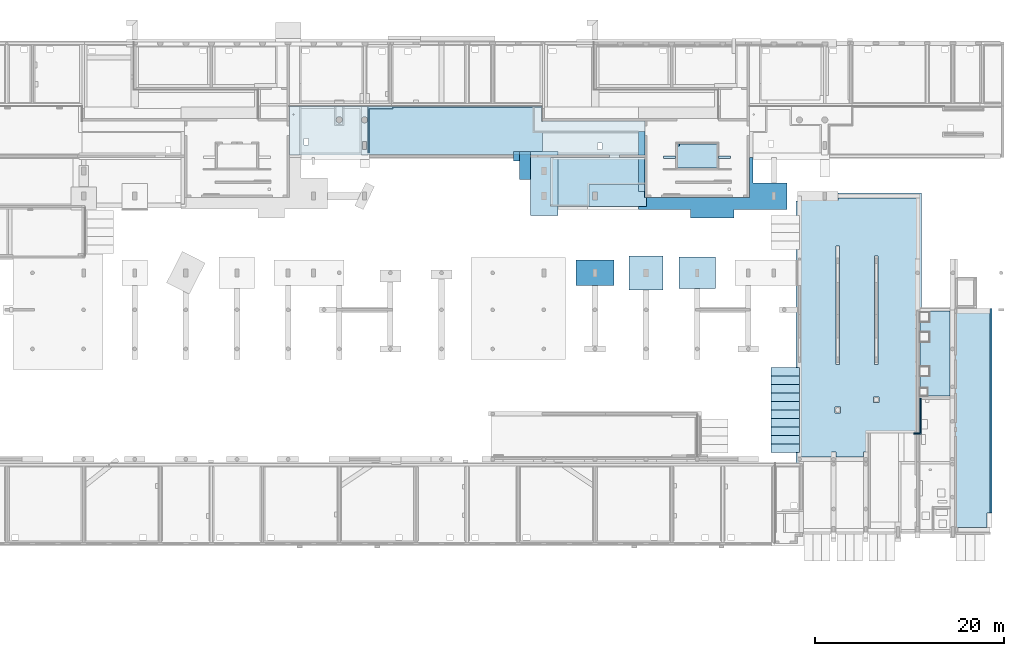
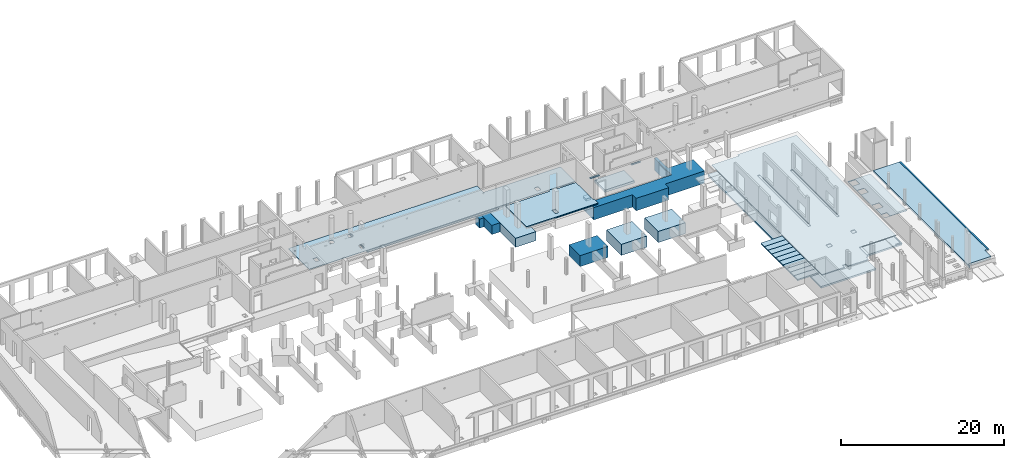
# One storey, part 30 of 60: 36 slabs, 17 openings.
"""IFC2X3 building model written with IfcOpenShell, lengths in millimetres."""

from ifc_helpers import new_model, entity, si_unit, converted_unit, derived_unit, direction, frame, frame_2d, origin, origin_2d_with_axis, place, context, subcontext, project, spatial, polyline, rectangle, circle, outline, extrude, boolean, material, layer, layer_set, layer_usage, element, save


model = new_model("IFC2X3")

# Units and contexts
model_context = context("Model", 3, precision=0.01, world=origin(), true_north=direction((6.12303176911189e-17, 1.0)))
body_context = subcontext(model_context, "Body", "Model", "MODEL_VIEW")
ifc_project = project(units=[si_unit("LENGTHUNIT", "METRE", prefix="MILLI"), si_unit("AREAUNIT", "SQUARE_METRE"), si_unit("VOLUMEUNIT", "CUBIC_METRE"), converted_unit("PLANEANGLEUNIT", "DEGREE", entity("IfcRatioMeasure", 0.0174532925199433), si_unit("PLANEANGLEUNIT", "RADIAN"), dimensions=[0, 0, 0, 0, 0, 0, 0]), si_unit("MASSUNIT", "GRAM", prefix="KILO"), derived_unit("MASSDENSITYUNIT", [(si_unit("MASSUNIT", "GRAM", prefix="KILO"), 1), (si_unit("LENGTHUNIT", "METRE"), -3)]), si_unit("TIMEUNIT", "SECOND"), si_unit("FREQUENCYUNIT", "HERTZ"), si_unit("THERMODYNAMICTEMPERATUREUNIT", "DEGREE_CELSIUS"), derived_unit("THERMALTRANSMITTANCEUNIT", [(si_unit("MASSUNIT", "GRAM", prefix="KILO"), 1), (si_unit("THERMODYNAMICTEMPERATUREUNIT", "KELVIN"), -1), (si_unit("TIMEUNIT", "SECOND"), -3)]), derived_unit("VOLUMETRICFLOWRATEUNIT", [(si_unit("LENGTHUNIT", "METRE"), 3), (si_unit("TIMEUNIT", "SECOND"), -1)]), si_unit("ELECTRICCURRENTUNIT", "AMPERE"), si_unit("ELECTRICVOLTAGEUNIT", "VOLT"), si_unit("POWERUNIT", "WATT"), si_unit("FORCEUNIT", "NEWTON", prefix="KILO"), si_unit("ILLUMINANCEUNIT", "LUX"), si_unit("LUMINOUSFLUXUNIT", "LUMEN"), si_unit("LUMINOUSINTENSITYUNIT", "CANDELA"), derived_unit("USERDEFINED", [(si_unit("MASSUNIT", "GRAM", prefix="KILO"), -1), (si_unit("LENGTHUNIT", "METRE"), -2), (si_unit("TIMEUNIT", "SECOND"), 3), (si_unit("LUMINOUSFLUXUNIT", "LUMEN"), 1)]), derived_unit("LINEARVELOCITYUNIT", [(si_unit("LENGTHUNIT", "METRE"), 1), (si_unit("TIMEUNIT", "SECOND"), -1)]), si_unit("PRESSUREUNIT", "PASCAL"), derived_unit("USERDEFINED", [(si_unit("LENGTHUNIT", "METRE"), -2), (si_unit("MASSUNIT", "GRAM", prefix="KILO"), 1), (si_unit("TIMEUNIT", "SECOND"), -2)])], contexts=[model_context])

# Site, building, storey
site_placement = place(None, origin())
site = spatial("IfcSite", under=ifc_project, at=site_placement, Name="Default", CompositionType="ELEMENT")
building_placement = place(site_placement, origin())
building = spatial("IfcBuilding", under=site, at=building_placement, Name="niet gebruiken", CompositionType="ELEMENT")
storey_placement = place(building_placement, origin())
storey = spatial("IfcBuildingStorey", under=building, at=storey_placement, Name="00 begane grond", CompositionType="ELEMENT", Elevation=0.0)

# Slab, opening
ifc_material_1 = material(Name="NLRS_f2_beton ihwg")
ifc_layer_1 = layer(ifc_material_1, 70.0)
ifc_layer_set_1 = layer_set([ifc_layer_1], Name="Floor:NLRS_23.21_FL_druklaag d=70 - gevlinderd_gen")
ifc_layer_usage_1 = layer_usage(ifc_layer_set_1, "AXIS3", "POSITIVE", 0.0)
slab_1_placement = place(storey_placement, frame((76300.0, 35905.6227616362, -70.0)))
slab_1 = element("IfcSlab", 1, at=slab_1_placement, inside=storey, material=ifc_layer_usage_1, Name="Floor:NLRS_23.21_FL_druklaag d=70 - gevlinderd_gen", ObjectType="Floor:NLRS_23.21_FL_druklaag d=70 - gevlinderd_gen", PredefinedType="FLOOR", context=body_context, shape_type="SweptSolid", body=[
    extrude(outline(polyline([(-2227.49999999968, 2452.68861918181), (-4892.50000000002, 2452.6886191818), (-4892.50000000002, -1752.31138081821), (-5062.49999999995, -1752.31138081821), (-5062.49999999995, -2702.68861918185), (5062.49999999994, -2702.68861918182), (5062.49999999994, 2452.68861918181), (-1202.49999999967, 2452.68861918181), (-1202.49999999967, 2702.68861918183), (-2227.49999999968, 2702.68861918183), (-2227.49999999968, 2452.68861918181)])), frame((5062.49999999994, 2702.68861918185, 70.0), z_axis=(0.0, 0.0, -1.0), x_axis=(-1.0, 0.0, 0.0)), (0.0, 0.0, 1.0), 70.0),
])
opening_1_placement = place(slab_1_placement, frame((4700.0, 1075.37723836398, 70.0)))
element("IfcOpeningElement", 2, at=opening_1_placement, cuts=slab_1, Name="Floor:NLRS_23.21_FL_druklaag d=70 - gevlinderd_gen:2", ObjectType="Opening", context=body_context, shape_type="SweptSolid", body=[
    extrude(rectangle(XDim=850.000000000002, YDim=499.99999999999, at=origin_2d_with_axis()), frame((0.0, 0.0, 0.0), z_axis=(0.0, 0.0, -1.0), x_axis=(0.0, 1.0, 0.0)), (0.0, 0.0, 1.0), 70.0),
])

ifc_material_2 = material(Name="NLRS_f2_beton prefab")
ifc_layer_2 = layer(ifc_material_2, 200.0)
ifc_material_3 = material(Name="NLRS_n7_isolatie EPS")
ifc_layer_3 = layer(ifc_material_3, 132.0)
ifc_layer_set_2 = layer_set([ifc_layer_2, ifc_layer_3], Name="Floor:NLRS_23.21_FL_geisoleerde kanaalplaat d=200 rc 3.5 iso132_gen")
ifc_layer_usage_2 = layer_usage(ifc_layer_set_2, "AXIS3", "POSITIVE", 0.0)
slab_2_placement = place(storey_placement, frame((49800.0, 41331.0, -402.0)))
slab_2 = element("IfcSlab", 3, at=slab_2_placement, inside=storey, material=ifc_layer_usage_2, Name="Floor:NLRS_23.21_FL_geisoleerde kanaalplaat d=200 rc 3.5 iso132_gen:2", ObjectType="Floor:NLRS_23.21_FL_geisoleerde kanaalplaat d=200 rc 3.5 iso132_gen", PredefinedType="FLOOR", context=body_context, shape_type="SweptSolid", body=[
    extrude(outline(polyline([(5600.0, -2572.49999999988), (5600.0, 2572.49999999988), (-11950.0, 2572.49999999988), (-11950.0, -72.5000000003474), (-12825.0, -72.5000000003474), (-12825.0, -2572.49999999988), (5600.0, -2572.49999999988)])), frame((12825.0, 2572.49999999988, 332.0), z_axis=(0.0, 0.0, -1.0), x_axis=(-1.0, 0.0, 0.0)), (0.0, 0.0, 1.0), 332.0),
])
placement = place(storey_placement, frame((49800.0, 41331.0, -402.0)))
opening_2_placement = place(placement, origin())
element("IfcOpeningElement", 4, at=opening_2_placement, cuts=slab_2, ObjectType="Opening", context=body_context, shape_type="SweptSolid", body=[
    extrude(rectangle(XDim=700.000000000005, YDim=499.999999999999, at=origin_2d_with_axis()), frame((709.9895580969, 1375.00073239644, -48.0), z_axis=(0.0, 0.0, 1.0), x_axis=(0.0, -1.0, 0.0)), (0.0, 0.0, 1.0), 450.0),
])

# Slabs
ifc_layer_4 = layer(ifc_material_2, 200.0)
ifc_layer_set_3 = layer_set([ifc_layer_4], Name="Floor:NLRS_23.21_FL_kanaalplaat d=200_gen")
ifc_layer_usage_3 = layer_usage(ifc_layer_set_3, "AXIS3", "POSITIVE", 0.0)
slab_3_placement = place(storey_placement, origin())
element("IfcSlab", 5, at=slab_3_placement, inside=storey, material=ifc_layer_usage_3, Name="Floor:NLRS_23.21_FL_kanaalplaat d=200_gen", ObjectType="Floor:NLRS_23.21_FL_kanaalplaat d=200_gen", PredefinedType="FLOOR", context=body_context, shape_type="SweptSolid", body=[
    extrude(outline(polyline([(-2440.0, -4488.33333333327), (2625.0, -4488.33333333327), (2625.0, 5196.66666666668), (-185.0, 5196.66666666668), (-185.0, -708.333333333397), (-2440.0, -708.333333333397), (-2440.0, -4488.33333333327)])), frame((81058.3333333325, 38416.0, -70.0), z_axis=(0.0, 0.0, -1.0), x_axis=(0.0, 1.0, 0.0)), (0.0, 0.0, 1.0), 200.0),
])
slab_4_placement = place(storey_placement, origin())
element("IfcSlab", 6, at=slab_4_placement, inside=storey, material=ifc_material_1, Name="NLRS_16.13_SFO_LB_fundatiepoer_gen:6750x2900x1350", ObjectType="NLRS_16.13_SFO_LB_fundatiepoer_gen:6750x2900x1350", PredefinedType="BASESLAB", context=body_context, shape_type="SweptSolid", body=[
    extrude(rectangle(XDim=6750.0, YDim=2900.0, at=frame_2d((89.0000000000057, 289.999999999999), x_axis=(1.0, 0.0))), frame((75335.0, 38400.0, -1752.0), z_axis=(0.0, 0.0, 1.0), x_axis=(0.0, -1.0, 0.0)), (0.0, 0.0, 1.0), 1350.0),
])

# Slab, opening
ifc_layer_5 = layer(ifc_material_1, 350.0)
ifc_layer_set_4 = layer_set([ifc_layer_5], Name="Floor:NLRS_23.21_FL_beton ihwg d=350_gen")
ifc_layer_usage_4 = layer_usage(ifc_layer_set_4, "AXIS3", "POSITIVE", 0.0)
slab_5_placement = place(storey_placement, frame((89725.0, 39946.0, -2050.0)))
slab_5 = element("IfcSlab", 7, at=slab_5_placement, inside=storey, material=ifc_layer_usage_4, Name="Floor:NLRS_23.21_FL_beton ihwg d=350_gen", ObjectType="Floor:NLRS_23.21_FL_beton ihwg d=350_gen", PredefinedType="FLOOR", context=body_context, shape_type="SweptSolid", body=[
    extrude(rectangle(XDim=2549.99999999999, YDim=4149.99999999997, at=frame_2d((0.0, 0.0), x_axis=(0.0, -1.0))), frame((2075.0, 1275.0, 350.0), z_axis=(0.0, 0.0, -1.0), x_axis=(-1.0, 0.0, 0.0)), (0.0, 0.0, 1.0), 350.0),
])
opening_3_placement = place(slab_5_placement, origin())
element("IfcOpeningElement", 8, at=opening_3_placement, cuts=slab_5, ObjectType="Opening", context=body_context, shape_type="SweptSolid", body=[
    extrude(rectangle(XDim=200.000000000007, YDim=200.000000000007, at=origin_2d_with_axis()), frame((100.0, 2450.0, 325.0), z_axis=(0.0, 0.0, 1.0), x_axis=(-1.0, 0.0, 0.0)), (0.0, 0.0, 1.0), 25.0),
])

# Slabs
slab_6_placement = place(storey_placement, origin())
element("IfcSlab", 9, at=slab_6_placement, inside=storey, material=ifc_material_1, Name="NLRS_16.13_SFO_LB_fundatiepoer_gen:4000x2700x1650", ObjectType="NLRS_16.13_SFO_LB_fundatiepoer_gen:4000x2700x1650", PredefinedType="BASESLAB", context=body_context, shape_type="SweptSolid", body=[
    extrude(rectangle(XDim=2700.0, YDim=4000.00000000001, at=origin_2d_with_axis()), frame((81000.0, 28881.0, -1850.0), z_axis=(0.0, 0.0, 1.0), x_axis=(0.0, -1.0, 0.0)), (0.0, 0.0, 1.0), 1650.0),
])
slab_7_placement = place(storey_placement, origin())
element("IfcSlab", 10, at=slab_7_placement, inside=storey, material=ifc_material_1, Name="NLRS_16.13_SFO_LB_fundatiepoer_gen:3850x3350x1650", ObjectType="NLRS_16.13_SFO_LB_fundatiepoer_gen:3850x3350x1650", PredefinedType="BASESLAB", context=body_context, shape_type="SweptSolid", body=[
    extrude(rectangle(XDim=3350.0, YDim=3850.00000000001, at=frame_2d((0.0, -8.75388650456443e-12), x_axis=(1.0, 0.0))), frame((91800.0, 28881.0, -1850.0), z_axis=(0.0, 0.0, 1.0), x_axis=(0.0, -1.0, 0.0)), (0.0, 0.0, 1.0), 1650.0),
])
slab_8_placement = place(storey_placement, origin())
element("IfcSlab", 11, at=slab_8_placement, inside=storey, material=ifc_material_1, Name="NLRS_16.13_SFO_LB_fundatiepoer_gen:3600x3600x1650", ObjectType="NLRS_16.13_SFO_LB_fundatiepoer_gen:3600x3600x1650", PredefinedType="BASESLAB", context=body_context, shape_type="SweptSolid", body=[
    extrude(rectangle(XDim=3600.0, YDim=3600.0, at=frame_2d((2.1600499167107e-12, -8.64019966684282e-12), x_axis=(1.0, 0.0))), frame((86400.0, 28881.0, -1850.0), z_axis=(0.0, 0.0, 1.0), x_axis=(0.0, 1.0, 0.0)), (0.0, 0.0, 1.0), 1650.0),
])

# Slab, openings
ifc_layer_usage_5 = layer_usage(ifc_layer_set_1, "AXIS3", "POSITIVE", 0.0)
slab_9_placement = place(storey_placement, frame((48725.0, 41311.0, -70.0)))
slab_9 = element("IfcSlab", 12, at=slab_9_placement, inside=storey, material=ifc_layer_usage_5, Name="Floor:NLRS_23.21_FL_druklaag d=70 - gevlinderd_gen", ObjectType="Floor:NLRS_23.21_FL_druklaag d=70 - gevlinderd_gen", PredefinedType="FLOOR", context=body_context, shape_type="SweptSolid", body=[
    extrude(outline(polyline([(-7930.0, 2582.49999999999), (-7930.0, 1012.49999999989), (-18775.0, 1012.49999999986), (-18775.0, -2582.5000000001), (18775.0, -2582.49999999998), (18775.0, 2582.5000000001), (-7930.0, 2582.49999999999)])), frame((18775.0, 2582.5000000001, 70.0), z_axis=(0.0, 0.0, -1.0), x_axis=(-1.0, 0.0, 0.0)), (0.0, 0.0, 1.0), 70.0),
])
opening_4_placement = place(slab_9_placement, origin())
element("IfcOpeningElement", 13, at=opening_4_placement, cuts=slab_9, ObjectType="Opening", context=body_context, shape_type="SweptSolid", body=[
    extrude(circle(Radius=80.0, at=origin_2d_with_axis()), frame((445.166666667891, 4290.57250000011, -700.0), z_axis=(0.0, 0.0, 1.0), x_axis=(0.0, 1.0, 0.0)), (0.0, 0.0, 1.0), 770.0),
])
opening_5_placement = place(slab_9_placement, origin())
element("IfcOpeningElement", 14, at=opening_5_placement, cuts=slab_9, ObjectType="Opening", context=body_context, shape_type="SweptSolid", body=[
    extrude(rectangle(XDim=700.000000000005, YDim=499.999999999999, at=origin_2d_with_axis()), frame((1784.98955809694, 1395.00073239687, -380.0), z_axis=(0.0, 0.0, 1.0), x_axis=(0.0, -1.0, 0.0)), (0.0, 0.0, 1.0), 450.0),
])
opening_6_placement = place(slab_9_placement, origin())
element("IfcOpeningElement", 15, at=opening_6_placement, cuts=slab_9, ObjectType="Opening", context=body_context, shape_type="SweptSolid", body=[
    extrude(rectangle(XDim=699.999999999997, YDim=500.000000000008, at=origin_2d_with_axis()), frame((32785.0, 930.0, -380.0), z_axis=(0.0, 0.0, 1.0), x_axis=(0.0, -1.0, 0.0)), (0.0, 0.0, 1.0), 450.0),
])
opening_7_placement = place(slab_9_placement, frame((5275.0, 3720.0, 70.0)))
element("IfcOpeningElement", 16, at=opening_7_placement, cuts=slab_9, Name="Floor:NLRS_23.21_FL_druklaag d=70 - gevlinderd_gen:2", ObjectType="Opening", context=body_context, shape_type="SweptSolid", body=[
    extrude(circle(Radius=325.0, at=origin_2d_with_axis()), frame((0.0, 0.0, 0.0), z_axis=(0.0, 0.0, -1.0), x_axis=(1.0, 0.0, 0.0)), (0.0, 0.0, 1.0), 70.0),
])
opening_8_placement = place(slab_9_placement, frame((7950.0, 3720.0, 70.0)))
element("IfcOpeningElement", 17, at=opening_8_placement, cuts=slab_9, Name="Floor:NLRS_23.21_FL_druklaag d=70 - gevlinderd_gen:3", ObjectType="Opening", context=body_context, shape_type="SweptSolid", body=[
    extrude(circle(Radius=325.0, at=origin_2d_with_axis()), frame((0.0, 0.0, 0.0), z_axis=(0.0, 0.0, -1.0), x_axis=(1.0, 0.0, 0.0)), (0.0, 0.0, 1.0), 70.0),
])
opening_9_placement = place(slab_9_placement, frame((7950.0, 1020.0, 70.0)))
element("IfcOpeningElement", 18, at=opening_9_placement, cuts=slab_9, Name="Floor:NLRS_23.21_FL_druklaag d=70 - gevlinderd_gen:4", ObjectType="Opening", context=body_context, shape_type="SweptSolid", body=[
    extrude(rectangle(XDim=399.999999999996, YDim=849.999999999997, at=origin_2d_with_axis()), frame((0.0, 0.0, 0.0), z_axis=(0.0, 0.0, -1.0), x_axis=(-1.0, 0.0, 0.0)), (0.0, 0.0, 1.0), 70.0),
])

# Slabs
ifc_layer_6 = layer(ifc_material_1, 300.0)
ifc_layer_set_5 = layer_set([ifc_layer_6], Name="Floor:NLRS_13.22_FL_beton ihwg d=300_gevlinderd en ingestrooid_gen")
ifc_layer_usage_6 = layer_usage(ifc_layer_set_5, "AXIS3", "POSITIVE", 0.0)
slab_10_placement = place(storey_placement, origin())
element("IfcSlab", 19, at=slab_10_placement, inside=storey, material=ifc_layer_usage_6, Name="Floor:NLRS_13.22_FL_beton ihwg d=300_gevlinderd en ingestrooid_gen", ObjectType="Floor:NLRS_13.22_FL_beton ihwg d=300_gevlinderd en ingestrooid_gen", PredefinedType="BASESLAB", context=body_context, shape_type="SweptSolid", body=[
    extrude(outline(polyline([(-6524.0, -1792.50000000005), (17077.0, -1792.50000000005), (17077.0, 1917.50000000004), (-4529.0, 1917.50000000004), (-4529.0, 1567.50000000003), (-6024.0, 1567.50000000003), (-6024.0, -1692.50000000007), (-6524.0, -1692.50000000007), (-6524.0, -1792.50000000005)])), frame((120812.5, 8024.0, 0.0), z_axis=(0.0, 0.0, -1.0), x_axis=(0.0, 1.0, 0.0)), (0.0, 0.0, 1.0), 300.0),
])
ifc_layer_7 = layer(ifc_material_1, 250.0)
ifc_layer_set_6 = layer_set([ifc_layer_7], Name="Floor:NLRS_13.22_FL_beton ihwg d=250_gen")
ifc_layer_usage_7 = layer_usage(ifc_layer_set_6, "AXIS3", "POSITIVE", 0.0)
slab_11_placement = place(storey_placement, origin())
element("IfcSlab", 20, at=slab_11_placement, inside=storey, material=ifc_layer_usage_7, Name="Floor:NLRS_13.22_FL_beton ihwg d=250_gen", ObjectType="Floor:NLRS_13.22_FL_beton ihwg d=250_gen", PredefinedType="BASESLAB", context=body_context, shape_type="SweptSolid", body=[
    extrude(outline(polyline([(-13704.1666666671, -8616.66666666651), (13980.8333333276, -8616.66666666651), (13980.8333333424, -4191.66666666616), (14830.833333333, -4191.66666666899), (14830.833333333, 4608.3333333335), (2425.83333333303, 4608.33333333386), (2425.83333333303, 4458.3333333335), (-6854.16666666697, 4458.3333333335), (-6854.16666666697, 4608.33333333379), (-10679.1666666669, 4608.33333333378), (-10679.1666666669, -866.666666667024), (-13704.1666666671, -866.666666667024), (-13704.1666666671, -8616.66666666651)])), frame((110866.666666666, 22500.1666666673, -1600.0), z_axis=(0.0, 0.0, -1.0), x_axis=(0.0, 1.0, 0.0)), (0.0, 0.0, 1.0), 250.0),
])
ifc_layer_8 = layer(ifc_material_2, 200.0)
ifc_layer_set_7 = layer_set([ifc_layer_8], Name="Floor:NLRS_13.22_FL_beton prefab d=200_gen")
ifc_layer_usage_8 = layer_usage(ifc_layer_set_7, "AXIS3", "POSITIVE", 0.0)
slab_12_placement = place(storey_placement, origin())
element("IfcSlab", 21, at=slab_12_placement, inside=storey, material=ifc_layer_usage_8, Name="Floor:NLRS_13.22_FL_beton prefab d=200_gen", ObjectType="Floor:NLRS_13.22_FL_beton prefab d=200_gen", PredefinedType="FLOOR", context=body_context, shape_type="SweptSolid", body=[
    extrude(rectangle(XDim=900.000000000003, YDim=3000.00000000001, at=frame_2d((1.08002495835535e-12, 0.0), x_axis=(1.0, 0.0))), frame((101080.0, 10335.8078695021, -250.0), z_axis=(0.0, 0.0, -1.0), x_axis=(0.0, 1.0, 0.0)), (0.0, 0.0, 1.0), 200.0),
])
ifc_layer_usage_9 = layer_usage(ifc_layer_set_7, "AXIS3", "POSITIVE", 0.0)
slab_13_placement = place(storey_placement, origin())
element("IfcSlab", 22, at=slab_13_placement, inside=storey, material=ifc_layer_usage_9, Name="Floor:NLRS_13.22_FL_beton prefab d=200_gen", ObjectType="Floor:NLRS_13.22_FL_beton prefab d=200_gen", PredefinedType="FLOOR", context=body_context, shape_type="SweptSolid", body=[
    extrude(rectangle(XDim=900.000000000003, YDim=2999.99999999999, at=frame_2d((1.08002495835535e-12, 8.64019966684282e-12), x_axis=(1.0, 0.0))), frame((101080.0, 11235.8078695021, -250.0), z_axis=(0.0, 0.0, -1.0), x_axis=(0.0, 1.0, 0.0)), (0.0, 0.0, 1.0), 200.0),
])
ifc_layer_usage_10 = layer_usage(ifc_layer_set_7, "AXIS3", "POSITIVE", 0.0)
slab_14_placement = place(storey_placement, origin())
element("IfcSlab", 23, at=slab_14_placement, inside=storey, material=ifc_layer_usage_10, Name="Floor:NLRS_13.22_FL_beton prefab d=200_gen", ObjectType="Floor:NLRS_13.22_FL_beton prefab d=200_gen", PredefinedType="FLOOR", context=body_context, shape_type="SweptSolid", body=[
    extrude(rectangle(XDim=900.000000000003, YDim=2999.99999999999, at=frame_2d((1.08002495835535e-12, 8.64019966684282e-12), x_axis=(1.0, 0.0))), frame((101080.0, 12135.8078695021, -250.0), z_axis=(0.0, 0.0, -1.0), x_axis=(0.0, 1.0, 0.0)), (0.0, 0.0, 1.0), 200.0),
])
ifc_layer_usage_11 = layer_usage(ifc_layer_set_7, "AXIS3", "POSITIVE", 0.0)
slab_15_placement = place(storey_placement, origin())
element("IfcSlab", 24, at=slab_15_placement, inside=storey, material=ifc_layer_usage_11, Name="Floor:NLRS_13.22_FL_beton prefab d=200_gen", ObjectType="Floor:NLRS_13.22_FL_beton prefab d=200_gen", PredefinedType="FLOOR", context=body_context, shape_type="SweptSolid", body=[
    extrude(rectangle(XDim=900.000000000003, YDim=3000.00000000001, at=frame_2d((1.08002495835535e-12, 0.0), x_axis=(1.0, 0.0))), frame((101080.0, 13035.8078695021, -250.0), z_axis=(0.0, 0.0, -1.0), x_axis=(0.0, 1.0, 0.0)), (0.0, 0.0, 1.0), 200.0),
])
ifc_layer_usage_12 = layer_usage(ifc_layer_set_7, "AXIS3", "POSITIVE", 0.0)
slab_16_placement = place(storey_placement, origin())
element("IfcSlab", 25, at=slab_16_placement, inside=storey, material=ifc_layer_usage_12, Name="Floor:NLRS_13.22_FL_beton prefab d=200_gen", ObjectType="Floor:NLRS_13.22_FL_beton prefab d=200_gen", PredefinedType="FLOOR", context=body_context, shape_type="SweptSolid", body=[
    extrude(rectangle(XDim=900.000000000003, YDim=2999.99999999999, at=frame_2d((1.08002495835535e-12, 8.64019966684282e-12), x_axis=(1.0, 0.0))), frame((101080.0, 13935.8078695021, -250.0), z_axis=(0.0, 0.0, -1.0), x_axis=(0.0, 1.0, 0.0)), (0.0, 0.0, 1.0), 200.0),
])
ifc_layer_usage_13 = layer_usage(ifc_layer_set_7, "AXIS3", "POSITIVE", 0.0)
slab_17_placement = place(storey_placement, origin())
element("IfcSlab", 26, at=slab_17_placement, inside=storey, material=ifc_layer_usage_13, Name="Floor:NLRS_13.22_FL_beton prefab d=200_gen", ObjectType="Floor:NLRS_13.22_FL_beton prefab d=200_gen", PredefinedType="FLOOR", context=body_context, shape_type="SweptSolid", body=[
    extrude(rectangle(XDim=900.000000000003, YDim=2999.99999999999, at=frame_2d((1.08002495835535e-12, 8.64019966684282e-12), x_axis=(1.0, 0.0))), frame((101080.0, 14835.8078695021, -250.0), z_axis=(0.0, 0.0, -1.0), x_axis=(0.0, 1.0, 0.0)), (0.0, 0.0, 1.0), 200.0),
])
ifc_layer_usage_14 = layer_usage(ifc_layer_set_7, "AXIS3", "POSITIVE", 0.0)
slab_18_placement = place(storey_placement, origin())
element("IfcSlab", 27, at=slab_18_placement, inside=storey, material=ifc_layer_usage_14, Name="Floor:NLRS_13.22_FL_beton prefab d=200_gen", ObjectType="Floor:NLRS_13.22_FL_beton prefab d=200_gen", PredefinedType="FLOOR", context=body_context, shape_type="SweptSolid", body=[
    extrude(rectangle(XDim=900.000000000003, YDim=3000.00000000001, at=frame_2d((1.08002495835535e-12, 0.0), x_axis=(1.0, 0.0))), frame((101080.0, 15735.8078695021, -250.0), z_axis=(0.0, 0.0, -1.0), x_axis=(0.0, 1.0, 0.0)), (0.0, 0.0, 1.0), 200.0),
])
ifc_layer_usage_15 = layer_usage(ifc_layer_set_7, "AXIS3", "POSITIVE", 0.0)
slab_19_placement = place(storey_placement, origin())
element("IfcSlab", 28, at=slab_19_placement, inside=storey, material=ifc_layer_usage_15, Name="Floor:NLRS_13.22_FL_beton prefab d=200_gen", ObjectType="Floor:NLRS_13.22_FL_beton prefab d=200_gen", PredefinedType="FLOOR", context=body_context, shape_type="SweptSolid", body=[
    extrude(rectangle(XDim=900.000000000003, YDim=2999.99999999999, at=frame_2d((1.08002495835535e-12, 8.64019966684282e-12), x_axis=(1.0, 0.0))), frame((101080.0, 16635.8078695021, -250.0), z_axis=(0.0, 0.0, -1.0), x_axis=(0.0, 1.0, 0.0)), (0.0, 0.0, 1.0), 200.0),
])
ifc_layer_usage_16 = layer_usage(ifc_layer_set_7, "AXIS3", "POSITIVE", 0.0)
slab_20_placement = place(storey_placement, origin())
element("IfcSlab", 29, at=slab_20_placement, inside=storey, material=ifc_layer_usage_16, Name="Floor:NLRS_13.22_FL_beton prefab d=200_gen", ObjectType="Floor:NLRS_13.22_FL_beton prefab d=200_gen", PredefinedType="FLOOR", context=body_context, shape_type="SweptSolid", body=[
    extrude(rectangle(XDim=900.000000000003, YDim=2999.99999999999, at=frame_2d((1.08002495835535e-12, 8.64019966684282e-12), x_axis=(1.0, 0.0))), frame((101080.0, 17535.8078695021, -250.0), z_axis=(0.0, 0.0, -1.0), x_axis=(0.0, 1.0, 0.0)), (0.0, 0.0, 1.0), 200.0),
])
ifc_layer_usage_17 = layer_usage(ifc_layer_set_7, "AXIS3", "POSITIVE", 0.0)
slab_21_placement = place(storey_placement, origin())
element("IfcSlab", 30, at=slab_21_placement, inside=storey, material=ifc_layer_usage_17, Name="Floor:NLRS_13.22_FL_beton prefab d=200_gen", ObjectType="Floor:NLRS_13.22_FL_beton prefab d=200_gen", PredefinedType="FLOOR", context=body_context, shape_type="SweptSolid", body=[
    extrude(rectangle(XDim=900.000000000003, YDim=2999.99999999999, at=frame_2d((1.08002495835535e-12, 8.64019966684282e-12), x_axis=(1.0, 0.0))), frame((101080.0, 18435.8078695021, -250.0), z_axis=(0.0, 0.0, -1.0), x_axis=(0.0, 1.0, 0.0)), (0.0, 0.0, 1.0), 200.0),
])
ifc_layer_9 = layer(ifc_material_1, 1850.0)
ifc_layer_set_8 = layer_set([ifc_layer_9], Name="Floor:NLRS_13.22_FL_beton ihwg d=1850_gen")
ifc_layer_usage_18 = layer_usage(ifc_layer_set_8, "AXIS3", "POSITIVE", 0.0)
slab_22_placement = place(storey_placement, origin())
element("IfcSlab", 31, at=slab_22_placement, inside=storey, material=ifc_layer_usage_18, Name="Floor:NLRS_13.22_FL_beton ihwg d=1850_gen", ObjectType="Floor:NLRS_13.22_FL_beton ihwg d=1850_gen", PredefinedType="BASESLAB", context=body_context, shape_type="SweptSolid", body=[
    extrude(outline(polyline([(-1504.28571428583, -7960.71428571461), (370.71428571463, -7960.71428571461), (370.71428571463, -7285.7142857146), (-229.285714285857, -7285.7142857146), (-229.285714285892, 3764.2857142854), (3975.71428571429, 3764.2857142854), (3975.71428571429, 4139.28571428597), (1295.71428571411, 4139.28571428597), (1295.71428571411, 7714.2857142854), (-1504.28571428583, 7714.2857142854), (-1504.28571428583, 2114.28571428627), (-2404.28571428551, 2114.28571428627), (-2404.2857142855, -2485.71428571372), (-1504.28571428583, -2485.71428571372), (-1504.28571428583, -7960.71428571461)])), frame((93560.7142857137, 37085.2857142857, -200.0), z_axis=(0.0, 0.0, -1.0), x_axis=(0.0, 1.0, 0.0)), (0.0, 0.0, 1.0), 1850.0),
])
ifc_layer_10 = layer(ifc_material_1, 90.0)
ifc_layer_set_9 = layer_set([ifc_layer_10], Name="Floor:NLRS_23.21_FL_beton ihwg d=90_gen")
ifc_layer_usage_19 = layer_usage(ifc_layer_set_9, "AXIS3", "POSITIVE", 0.0)
slab_23_placement = place(storey_placement, frame((49950.0, 40004.0, -492.0)))
element("IfcSlab", 32, at=slab_23_placement, inside=storey, material=ifc_layer_usage_19, Name="Floor:NLRS_23.21_FL_beton ihwg d=90_gen:2", ObjectType="Floor:NLRS_23.21_FL_beton ihwg d=90_gen", PredefinedType="FLOOR", context=body_context, shape_type="SweptSolid", body=[
    extrude(outline(polyline([(-12750.0, 3121.0), (3050.0, 3121.0), (3050.0, 2971.0), (5525.0, 2971.0), (5525.0, -1714.0), (5675.0, -1714.0), (5675.0, 3246.0), (-12750.0, 3246.0), (-12750.0, 3121.0)])), frame((12750.0, 3246.0, 90.0), z_axis=(0.0, 0.0, -1.0), x_axis=(-1.0, 0.0, 0.0)), (0.0, 0.0, 1.0), 90.0),
])
ifc_layer_11 = layer(ifc_material_1, 1648.0)
ifc_layer_set_10 = layer_set([ifc_layer_11], Name="Floor:NLRS_13.22_FL_beton ihwg d=1648")
ifc_layer_usage_20 = layer_usage(ifc_layer_set_10, "AXIS3", "POSITIVE", 0.0)
slab_24_placement = place(storey_placement, origin())
element("IfcSlab", 33, at=slab_24_placement, inside=storey, material=ifc_layer_usage_20, Name="Floor:NLRS_13.22_FL_beton ihwg d=1648", ObjectType="Floor:NLRS_13.22_FL_beton ihwg d=1648", PredefinedType="BASESLAB", context=body_context, shape_type="CSG", body=[
    boolean("DIFFERENCE", extrude(rectangle(XDim=675.000000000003, YDim=6374.99999999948, at=frame_2d((0.0, -4.32009983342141e-12), x_axis=(1.0, 0.0))), frame((85937.4999999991, 40643.5000000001, -402.0), z_axis=(0.0, 0.0, -1.0), x_axis=(1.0, 0.0, 0.0)), (0.0, 0.0, 1.0), 1648.0), extrude(circle(Radius=37.5000000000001, at=origin_2d_with_axis()), frame((85600.0, 38681.3963331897, -700.0), z_axis=(1.0, 0.0, 0.0), x_axis=(0.0, 1.0, 0.0)), (0.0, 0.0, 1.0), 675.000000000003)),
])
ifc_layer_12 = layer(ifc_material_1, 130.0)
ifc_layer_set_11 = layer_set([ifc_layer_12], Name="Floor:NLRS_23.21_FL_beton ihwg d=130_gen")
ifc_layer_usage_21 = layer_usage(ifc_layer_set_11, "AXIS3", "POSITIVE", 0.0)
slab_25_placement = place(storey_placement, origin())
element("IfcSlab", 34, at=slab_25_placement, inside=storey, material=ifc_layer_usage_21, Name="Floor:NLRS_23.21_FL_beton ihwg d=130_gen", ObjectType="Floor:NLRS_23.21_FL_beton ihwg d=130_gen", PredefinedType="FLOOR", context=body_context, shape_type="SweptSolid", body=[
    extrude(outline(polyline([(-1206.53292877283, -4307.5), (1118.84430959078, -4307.5), (1118.84430959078, 942.500000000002), (343.844309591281, 942.500000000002), (343.844309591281, 1597.50000000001), (-256.155690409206, 1597.50000000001), (-256.155690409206, 1767.49999999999), (-1206.53292877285, 1767.50000000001), (-1206.53292877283, -4307.5)])), frame((84657.4999999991, 37112.1556904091, -70.0), z_axis=(0.0, 0.0, -1.0), x_axis=(0.0, 1.0, 0.0)), (0.0, 0.0, 1.0), 130.0),
])
ifc_layer_13 = layer(ifc_material_1, 332.0)
ifc_layer_set_12 = layer_set([ifc_layer_13], Name="Floor:NLRS_23.21_FL_beton ihwg d=332_gen")
ifc_layer_usage_22 = layer_usage(ifc_layer_set_12, "AXIS3", "POSITIVE", 0.0)
slab_26_placement = place(storey_placement, origin())
element("IfcSlab", 35, at=slab_26_placement, inside=storey, material=ifc_layer_usage_22, Name="Floor:NLRS_23.21_FL_beton ihwg d=332_gen", ObjectType="Floor:NLRS_23.21_FL_beton ihwg d=332_gen", PredefinedType="FLOOR", context=body_context, shape_type="SweptSolid", body=[
    extrude(rectangle(XDim=774.999999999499, YDim=675.000000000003, at=frame_2d((2.1600499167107e-12, 0.0), x_axis=(1.0, 0.0))), frame((85937.4999999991, 37843.5000000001, -70.0), z_axis=(0.0, 0.0, -1.0), x_axis=(0.0, 1.0, 0.0)), (0.0, 0.0, 1.0), 332.0),
])

# Slab, openings
ifc_layer_14 = layer(ifc_material_2, 70.0)
ifc_layer_set_13 = layer_set([ifc_layer_14], Name="Floor:NLRS_23.21_FL_breedplaatschil d=70_gen")
ifc_layer_usage_23 = layer_usage(ifc_layer_set_13, "AXIS3", "POSITIVE", 0.0)
slab_27_placement = place(storey_placement, frame((102780.0, 9426.0, -450.0)))
slab_27 = element("IfcSlab", 36, at=slab_27_placement, inside=storey, material=ifc_layer_usage_23, Name="Floor:NLRS_23.21_FL_breedplaatschil d=70_gen", ObjectType="Floor:NLRS_23.21_FL_breedplaatschil d=70_gen", PredefinedType="FLOOR", context=body_context, shape_type="SweptSolid", body=[
    extrude(outline(polyline([(2207.50000000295, 13687.5000000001), (-6082.50000000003, 13687.5000000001), (-6082.50000000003, 7202.49999999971), (-5982.50000000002, 7202.49999999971), (-5982.50000000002, -10912.4999999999), (-757.500370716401, -10912.4999999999), (-757.500370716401, -13177.5000000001), (-497.500370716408, -13177.5000000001), (-497.500370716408, -13687.5000000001), (2422.4996292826, -13687.5000000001), (2422.4996292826, -13177.5000000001), (2902.49962928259, -13177.5000000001), (2902.49962928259, -13687.5000000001), (6082.49999999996, -13687.5000000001), (6082.49999999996, 13387.4999999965), (2207.49999999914, 13387.5000000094), (2207.50000000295, 13687.5000000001)])), frame((6082.49999999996, 13687.5000000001, 70.0), z_axis=(0.0, 0.0, -1.0), x_axis=(-1.0, 0.0, 0.0)), (0.0, 0.0, 1.0), 70.0),
])
opening_10_placement = place(slab_27_placement, frame((3870.0, 16025.0, 70.0)))
element("IfcOpeningElement", 37, at=opening_10_placement, cuts=slab_27, Name="Floor:NLRS_23.21_FL_breedplaatschil d=70_gen:2", ObjectType="Opening", context=body_context, shape_type="SweptSolid", body=[
    extrude(rectangle(XDim=12510.0, YDim=360.000000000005, at=origin_2d_with_axis()), frame((0.0, 0.0, 0.0), z_axis=(0.0, 0.0, -1.0), x_axis=(0.0, 1.0, 0.0)), (0.0, 0.0, 1.0), 70.0),
])
opening_11_placement = place(slab_27_placement, frame((7920.0, 15500.0, 70.0)))
element("IfcOpeningElement", 38, at=opening_11_placement, cuts=slab_27, Name="Floor:NLRS_23.21_FL_breedplaatschil d=70_gen:3", ObjectType="Opening", context=body_context, shape_type="SweptSolid", body=[
    extrude(rectangle(XDim=11460.0, YDim=360.000000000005, at=origin_2d_with_axis()), frame((0.0, 0.0, 0.0), z_axis=(0.0, 0.0, -1.0), x_axis=(0.0, 1.0, 0.0)), (0.0, 0.0, 1.0), 70.0),
])
opening_12_placement = place(slab_27_placement, frame((3870.0, 4965.0, 70.0)))
element("IfcOpeningElement", 39, at=opening_12_placement, cuts=slab_27, Name="Floor:NLRS_23.21_FL_breedplaatschil d=70_gen:4", ObjectType="Opening", context=body_context, shape_type="SweptSolid", body=[
    extrude(rectangle(XDim=600.000000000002, YDim=599.999999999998, at=origin_2d_with_axis()), frame((0.0, 0.0, 0.0), z_axis=(0.0, 0.0, -1.0), x_axis=(-1.0, 0.0, 0.0)), (0.0, 0.0, 1.0), 70.0),
])
opening_13_placement = place(slab_27_placement, frame((7920.0, 6050.0, 70.0)))
element("IfcOpeningElement", 40, at=opening_13_placement, cuts=slab_27, Name="Floor:NLRS_23.21_FL_breedplaatschil d=70_gen:5", ObjectType="Opening", context=body_context, shape_type="SweptSolid", body=[
    extrude(rectangle(XDim=599.999999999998, YDim=600.000000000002, at=origin_2d_with_axis()), frame((0.0, 0.0, 0.0), z_axis=(0.0, 0.0, -1.0), x_axis=(0.0, -1.0, 0.0)), (0.0, 0.0, 1.0), 70.0),
])

ifc_layer_usage_24 = layer_usage(ifc_layer_set_13, "AXIS3", "POSITIVE", 0.0)
slab_28_placement = place(storey_placement, frame((115305.0, 15876.0, -250.0)))
slab_28 = element("IfcSlab", 41, at=slab_28_placement, inside=storey, material=ifc_layer_usage_24, Name="Floor:NLRS_23.21_FL_breedplaatschil d=70_gen", ObjectType="Floor:NLRS_23.21_FL_breedplaatschil d=70_gen", PredefinedType="FLOOR", context=body_context, shape_type="SweptSolid", body=[
    extrude(rectangle(XDim=3215.0000000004, YDim=8995.00000000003, at=origin_2d_with_axis()), frame((1607.5000000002, 4497.50000000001, 70.0), z_axis=(0.0, 0.0, -1.0), x_axis=(-1.0, 0.0, 0.0)), (0.0, 0.0, 1.0), 70.0),
])
opening_14_placement = place(slab_28_placement, origin())
element("IfcOpeningElement", 42, at=opening_14_placement, cuts=slab_28, ObjectType="Opening", context=body_context, shape_type="SweptSolid", body=[
    extrude(rectangle(XDim=800.000000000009, YDim=800.000000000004, at=origin_2d_with_axis()), frame((420.000010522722, 420.0, 0.0)), (0.0, 0.0, 1.0), 250.0),
])
opening_15_placement = place(slab_28_placement, origin())
element("IfcOpeningElement", 43, at=opening_15_placement, cuts=slab_28, ObjectType="Opening", context=body_context, shape_type="SweptSolid", body=[
    extrude(rectangle(XDim=999.999999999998, YDim=1000.0, at=origin_2d_with_axis()), frame((520.0, 2600.0, 0.0)), (0.0, 0.0, 1.0), 250.0),
])
opening_16_placement = place(slab_28_placement, origin())
element("IfcOpeningElement", 44, at=opening_16_placement, cuts=slab_28, ObjectType="Opening", context=body_context, shape_type="SweptSolid", body=[
    extrude(rectangle(XDim=999.999999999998, YDim=1000.0, at=origin_2d_with_axis()), frame((520.0, 6225.0, 0.0)), (0.0, 0.0, 1.0), 250.0),
])
opening_17_placement = place(slab_28_placement, origin())
element("IfcOpeningElement", 45, at=opening_17_placement, cuts=slab_28, ObjectType="Opening", context=body_context, shape_type="SweptSolid", body=[
    extrude(rectangle(XDim=999.999999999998, YDim=1000.0, at=origin_2d_with_axis()), frame((520.0, 8325.0, 0.0)), (0.0, 0.0, 1.0), 250.0),
])

# Slabs
ifc_layer_usage_25 = layer_usage(ifc_layer_set_9, "AXIS3", "POSITIVE", 0.0)
slab_29_placement = place(storey_placement, origin())
element("IfcSlab", 46, at=slab_29_placement, inside=storey, material=ifc_layer_usage_25, Name="Floor:NLRS_23.21_FL_beton ihwg d=90_gen", ObjectType="Floor:NLRS_23.21_FL_beton ihwg d=90_gen", PredefinedType="FLOOR", context=body_context, shape_type="SweptSolid", body=[
    extrude(rectangle(XDim=250.000000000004, YDim=1267.49649231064, at=frame_2d((4.33431068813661e-12, 8.69704308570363e-12), x_axis=(1.0, 0.0))), frame((88891.2516029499, 41071.0, 0.0), z_axis=(0.0, 0.0, -1.0), x_axis=(0.0, 1.0, 0.0)), (0.0, 0.0, 1.0), 90.0),
])
ifc_layer_usage_26 = layer_usage(ifc_layer_set_9, "AXIS3", "POSITIVE", 0.0)
slab_30_placement = place(storey_placement, origin())
element("IfcSlab", 47, at=slab_30_placement, inside=storey, material=ifc_layer_usage_26, Name="Floor:NLRS_23.21_FL_beton ihwg d=90_gen", ObjectType="Floor:NLRS_23.21_FL_beton ihwg d=90_gen", PredefinedType="FLOOR", context=body_context, shape_type="SweptSolid", body=[
    extrude(rectangle(XDim=250.000000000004, YDim=1267.49649231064, at=frame_2d((4.33431068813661e-12, 8.69704308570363e-12), x_axis=(1.0, 0.0))), frame((94708.7483970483, 41071.0, 0.0), z_axis=(0.0, 0.0, -1.0), x_axis=(0.0, 1.0, 0.0)), (0.0, 0.0, 1.0), 90.0),
])
ifc_layer_15 = layer(ifc_material_1, 70.0)
ifc_layer_set_14 = layer_set([ifc_layer_15], Name="Floor:NLRS_23.21_FL_beton ihwg d=70_gen")
ifc_layer_usage_27 = layer_usage(ifc_layer_set_14, "AXIS3", "POSITIVE", 0.0)
slab_31_placement = place(storey_placement, origin())
element("IfcSlab", 48, at=slab_31_placement, inside=storey, material=ifc_layer_usage_27, Name="Floor:NLRS_23.21_FL_beton ihwg d=70_gen", ObjectType="Floor:NLRS_23.21_FL_beton ihwg d=70_gen", PredefinedType="FLOOR", context=body_context, shape_type="SweptSolid", body=[
    extrude(rectangle(XDim=250.000000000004, YDim=1265.00000000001, at=frame_2d((4.33431068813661e-12, 0.0), x_axis=(1.0, 0.0))), frame((88892.4998491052, 41071.0, -20.0), z_axis=(0.0, 0.0, -1.0), x_axis=(0.0, 1.0, 0.0)), (0.0, 0.0, 1.0), 70.0),
])
ifc_layer_usage_28 = layer_usage(ifc_layer_set_14, "AXIS3", "POSITIVE", 0.0)
slab_32_placement = place(storey_placement, origin())
element("IfcSlab", 49, at=slab_32_placement, inside=storey, material=ifc_layer_usage_28, Name="Floor:NLRS_23.21_FL_beton ihwg d=70_gen", ObjectType="Floor:NLRS_23.21_FL_beton ihwg d=70_gen", PredefinedType="FLOOR", context=body_context, shape_type="SweptSolid", body=[
    extrude(rectangle(XDim=250.000000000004, YDim=1265.00000000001, at=frame_2d((4.33431068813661e-12, 0.0), x_axis=(1.0, 0.0))), frame((94707.500150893, 41071.0, -20.0), z_axis=(0.0, 0.0, -1.0), x_axis=(0.0, 1.0, 0.0)), (0.0, 0.0, 1.0), 70.0),
])
ifc_layer_16 = layer(ifc_material_1, 50.0)
ifc_layer_set_15 = layer_set([ifc_layer_16], Name="Floor:NLRS_13.22_FL_beton ihwg d=50_gen")
ifc_layer_usage_29 = layer_usage(ifc_layer_set_15, "AXIS3", "POSITIVE", 0.0)
slab_33_placement = place(storey_placement, origin())
element("IfcSlab", 50, at=slab_33_placement, inside=storey, material=ifc_layer_usage_29, Name="Floor:NLRS_13.22_FL_beton ihwg d=50_gen", ObjectType="Floor:NLRS_13.22_FL_beton ihwg d=50_gen", PredefinedType="BASESLAB", context=body_context, shape_type="SweptSolid", body=[
    extrude(outline(polyline([(-1325.0, -483.333333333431), (-1175.0, -483.333333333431), (-1175.0, 166.666666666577), (2500.0, 166.666666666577), (2500.0, 316.666666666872), (-1325.0, 316.666666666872), (-1325.0, -483.333333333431)])), frame((115158.333333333, 13146.0, -1550.0), z_axis=(0.0, 0.0, -1.0), x_axis=(0.0, 1.0, 0.0)), (0.0, 0.0, 1.0), 50.0),
])
ifc_layer_17 = layer(ifc_material_1, 245.0)
ifc_layer_set_16 = layer_set([ifc_layer_17], Name="Floor:NLRS_13.22_FL_beton ihwg d=245_gevlinderd en ingestrooid_gen")
ifc_layer_usage_30 = layer_usage(ifc_layer_set_16, "AXIS3", "POSITIVE", 0.0)
slab_34_placement = place(storey_placement, origin())
element("IfcSlab", 51, at=slab_34_placement, inside=storey, material=ifc_layer_usage_30, Name="Floor:NLRS_13.22_FL_beton ihwg d=245_gevlinderd en ingestrooid_gen", ObjectType="Floor:NLRS_13.22_FL_beton ihwg d=245_gevlinderd en ingestrooid_gen", PredefinedType="BASESLAB", context=body_context, shape_type="SweptSolid", body=[
    extrude(rectangle(XDim=21605.9999999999, YDim=220.000000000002, at=frame_2d((0.0, -8.66862137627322e-12), x_axis=(1.0, 0.0))), frame((122840.0, 14298.0, 0.0), z_axis=(0.0, 0.0, -1.0), x_axis=(0.0, 1.0, 0.0)), (0.0, 0.0, 1.0), 245.0),
])
slab_35_placement = place(storey_placement, origin())
element("IfcSlab", 52, at=slab_35_placement, inside=storey, material=ifc_material_1, Name="NLRS_16.13_SFO_LB_fundatiepoer_gen:2930x1150x1350", ObjectType="NLRS_16.13_SFO_LB_fundatiepoer_gen:2930x1150x1350", PredefinedType="BASESLAB", context=body_context, shape_type="SweptSolid", body=[
    extrude(rectangle(XDim=2930.0, YDim=1150.0, at=frame_2d((92.9999999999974, 114.999999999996), x_axis=(1.0, 0.0))), frame((73485.0, 40314.0, -1752.0), z_axis=(0.0, 0.0, 1.0), x_axis=(0.0, -1.0, 0.0)), (0.0, 0.0, 1.0), 1350.0),
])
slab_36_placement = place(storey_placement, origin())
element("IfcSlab", 53, at=slab_36_placement, inside=storey, material=ifc_material_1, Name="NLRS_16.13_SFO_LB_fundatiepoer_gen:625x1000x1350", ObjectType="NLRS_16.13_SFO_LB_fundatiepoer_gen:625x1000x1350", PredefinedType="BASESLAB", context=body_context, shape_type="SweptSolid", body=[
    extrude(rectangle(XDim=624.999999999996, YDim=999.999999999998, at=origin_2d_with_axis()), frame((72712.4999999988, 41186.0, -1752.0), z_axis=(0.0, 0.0, 1.0), x_axis=(-1.0, 0.0, 0.0)), (0.0, 0.0, 1.0), 1350.0),
])

save(model, "model.ifc")
